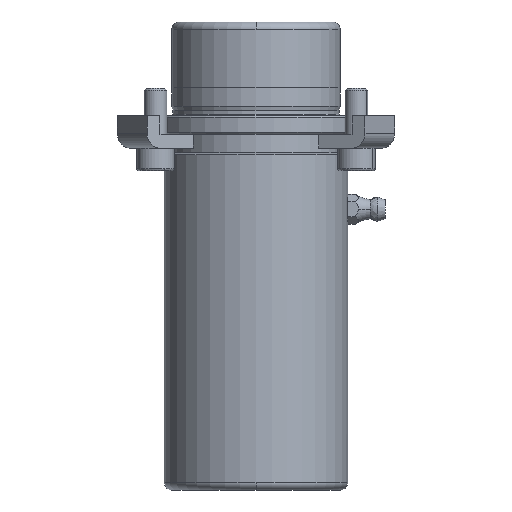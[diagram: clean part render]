
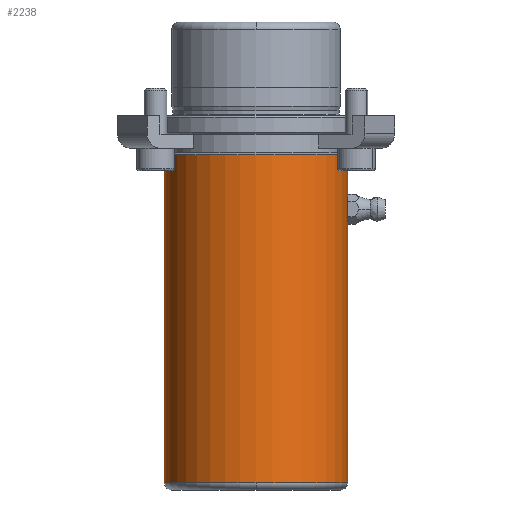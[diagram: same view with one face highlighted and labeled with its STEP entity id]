
A CAD part, front view. The second image highlights one B-rep face of the part: STEP entity #2238.
In plain terms, the highlighted cylindrical face has radius 24.5 mm (diameter 49 mm), a partial arc.
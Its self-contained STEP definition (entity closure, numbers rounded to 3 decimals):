
#604=CARTESIAN_POINT('',(0.,-24.5,-98.));
#605=VERTEX_POINT('',#604);
#613=CARTESIAN_POINT('',(-24.5,0.,-98.));
#614=VERTEX_POINT('',#613);
#615=CARTESIAN_POINT('',(0.0,0.,-98.));
#616=DIRECTION('',(0.0,0.0,-1.0));
#617=DIRECTION('',(1.0,0.0,0.0));
#618=AXIS2_PLACEMENT_3D('',#615,#616,#617);
#619=CIRCLE('',#618,24.5);
#620=EDGE_CURVE('',#605,#614,#619,.T.);
#637=CARTESIAN_POINT('',(24.5,0.,-98.));
#638=VERTEX_POINT('',#637);
#639=CARTESIAN_POINT('',(24.5,0.,-27.5));
#640=VERTEX_POINT('',#639);
#641=CARTESIAN_POINT('',(24.5,0.,-98.));
#642=DIRECTION('',(0.0,0.0,1.0));
#643=VECTOR('',#642,70.5);
#644=LINE('',#641,#643);
#645=EDGE_CURVE('',#638,#640,#644,.T.);
#655=CARTESIAN_POINT('',(-24.5,0.,-10.5));
#656=VERTEX_POINT('',#655);
#657=CARTESIAN_POINT('',(-24.5,0.,-98.));
#658=DIRECTION('',(0.0,0.0,1.0));
#659=VECTOR('',#658,87.5);
#660=LINE('',#657,#659);
#661=EDGE_CURVE('',#614,#656,#660,.T.);
#663=CARTESIAN_POINT('',(24.5,0.,-10.5));
#664=VERTEX_POINT('',#663);
#672=CARTESIAN_POINT('',(24.5,0.,-22.5));
#673=VERTEX_POINT('',#672);
#674=CARTESIAN_POINT('',(24.5,0.,-22.5));
#675=DIRECTION('',(0.0,0.0,1.0));
#676=VECTOR('',#675,12.0);
#677=LINE('',#674,#676);
#678=EDGE_CURVE('',#673,#664,#677,.T.);
#1577=CARTESIAN_POINT('',(24.372,-2.5,-25.0));
#1578=VERTEX_POINT('',#1577);
#1579=CARTESIAN_POINT('',(24.372,-2.5,-25.0));
#1580=CARTESIAN_POINT('',(24.372,-2.5,-24.843));
#1581=CARTESIAN_POINT('',(24.374,-2.485,-24.681));
#1582=CARTESIAN_POINT('',(24.38,-2.422,-24.358));
#1583=CARTESIAN_POINT('',(24.385,-2.373,-24.197));
#1584=CARTESIAN_POINT('',(24.397,-2.246,-23.889));
#1585=CARTESIAN_POINT('',(24.404,-2.166,-23.741));
#1586=CARTESIAN_POINT('',(24.42,-1.983,-23.468));
#1587=CARTESIAN_POINT('',(24.428,-1.879,-23.343));
#1588=CARTESIAN_POINT('',(24.444,-1.657,-23.121));
#1589=CARTESIAN_POINT('',(24.452,-1.532,-23.017));
#1590=CARTESIAN_POINT('',(24.468,-1.259,-22.834));
#1591=CARTESIAN_POINT('',(24.475,-1.111,-22.754));
#1592=CARTESIAN_POINT('',(24.487,-0.803,-22.627));
#1593=CARTESIAN_POINT('',(24.492,-0.642,-22.578));
#1594=CARTESIAN_POINT('',(24.498,-0.319,-22.515));
#1595=CARTESIAN_POINT('',(24.5,-0.157,-22.5));
#1596=CARTESIAN_POINT('',(24.5,0.,-22.5));
#1597=B_SPLINE_CURVE_WITH_KNOTS('',3,(#1579,#1580,#1581,#1582,#1583,#1584,#1585,#1586,#1587,#1588,#1589,#1590,#1591,#1592,#1593,#1594,#1595,#1596),.UNSPECIFIED.,.F.,.U.,(4,2,2,2,2,2,2,2,4),(0.0,0.471,0.942,1.414,1.885,2.356,2.827,3.298,3.77),.UNSPECIFIED.);
#1598=EDGE_CURVE('',#1578,#673,#1597,.T.);
#1600=CARTESIAN_POINT('',(24.5,0.,-27.5));
#1601=CARTESIAN_POINT('',(24.5,-0.157,-27.5));
#1602=CARTESIAN_POINT('',(24.498,-0.319,-27.485));
#1603=CARTESIAN_POINT('',(24.492,-0.642,-27.422));
#1604=CARTESIAN_POINT('',(24.487,-0.803,-27.373));
#1605=CARTESIAN_POINT('',(24.475,-1.111,-27.246));
#1606=CARTESIAN_POINT('',(24.468,-1.259,-27.166));
#1607=CARTESIAN_POINT('',(24.452,-1.532,-26.983));
#1608=CARTESIAN_POINT('',(24.444,-1.657,-26.879));
#1609=CARTESIAN_POINT('',(24.428,-1.879,-26.657));
#1610=CARTESIAN_POINT('',(24.42,-1.983,-26.532));
#1611=CARTESIAN_POINT('',(24.404,-2.166,-26.259));
#1612=CARTESIAN_POINT('',(24.397,-2.246,-26.111));
#1613=CARTESIAN_POINT('',(24.385,-2.373,-25.803));
#1614=CARTESIAN_POINT('',(24.38,-2.422,-25.642));
#1615=CARTESIAN_POINT('',(24.374,-2.485,-25.319));
#1616=CARTESIAN_POINT('',(24.372,-2.5,-25.157));
#1617=CARTESIAN_POINT('',(24.372,-2.5,-25.0));
#1618=B_SPLINE_CURVE_WITH_KNOTS('',3,(#1600,#1601,#1602,#1603,#1604,#1605,#1606,#1607,#1608,#1609,#1610,#1611,#1612,#1613,#1614,#1615,#1616,#1617),.UNSPECIFIED.,.F.,.U.,(4,2,2,2,2,2,2,2,4),(11.309,11.78,12.251,12.723,13.194,13.665,14.136,14.608,15.079),.UNSPECIFIED.);
#1619=EDGE_CURVE('',#640,#1578,#1618,.T.);
#2207=CARTESIAN_POINT('',(0.0,0.,-10.5));
#2208=DIRECTION('',(0.0,0.0,-1.0));
#2209=DIRECTION('',(1.0,0.0,0.0));
#2210=AXIS2_PLACEMENT_3D('',#2207,#2208,#2209);
#2211=CIRCLE('',#2210,24.5);
#2212=EDGE_CURVE('',#664,#656,#2211,.T.);
#2217=CARTESIAN_POINT('',(0.0,0.,-54.25));
#2218=DIRECTION('',(0.0,0.,-1.0));
#2219=DIRECTION('',(1.0,0.0,0.0));
#2220=AXIS2_PLACEMENT_3D('',#2217,#2218,#2219);
#2221=CYLINDRICAL_SURFACE('',#2220,24.5);
#2222=ORIENTED_EDGE('',*,*,#645,.T.);
#2223=ORIENTED_EDGE('',*,*,#1619,.T.);
#2224=ORIENTED_EDGE('',*,*,#1598,.T.);
#2225=ORIENTED_EDGE('',*,*,#678,.T.);
#2226=ORIENTED_EDGE('',*,*,#2212,.T.);
#2227=ORIENTED_EDGE('',*,*,#661,.F.);
#2228=ORIENTED_EDGE('',*,*,#620,.F.);
#2229=CARTESIAN_POINT('',(0.0,0.,-98.));
#2230=DIRECTION('',(0.0,0.0,-1.0));
#2231=DIRECTION('',(1.0,0.0,0.0));
#2232=AXIS2_PLACEMENT_3D('',#2229,#2230,#2231);
#2233=CIRCLE('',#2232,24.5);
#2234=EDGE_CURVE('',#638,#605,#2233,.T.);
#2235=ORIENTED_EDGE('',*,*,#2234,.F.);
#2236=EDGE_LOOP('',(#2222,#2223,#2224,#2225,#2226,#2227,#2228,#2235));
#2237=FACE_OUTER_BOUND('',#2236,.T.);
#2238=ADVANCED_FACE('',(#2237),#2221,.T.);
